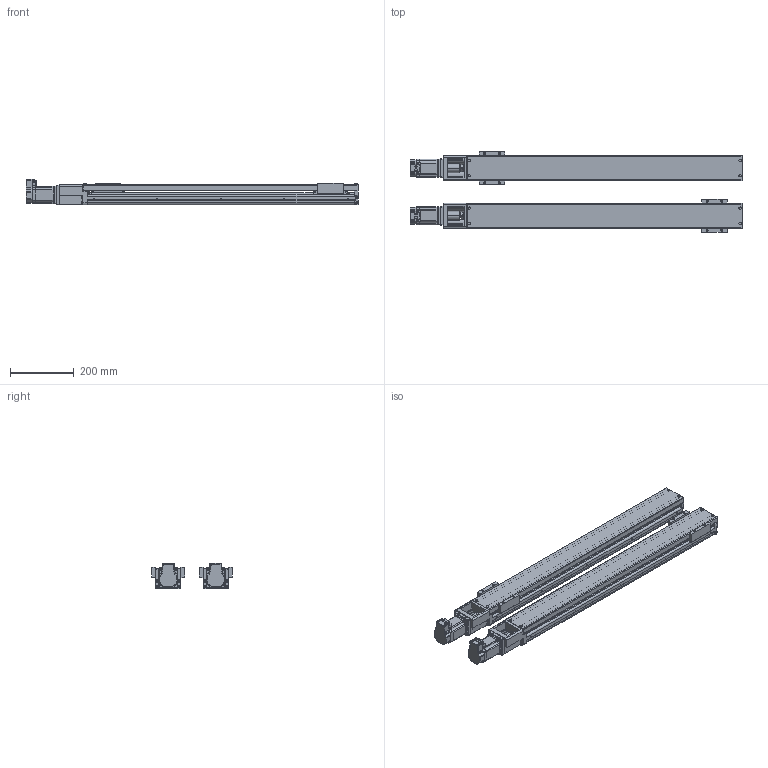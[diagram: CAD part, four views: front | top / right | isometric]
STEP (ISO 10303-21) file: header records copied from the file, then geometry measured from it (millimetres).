
FILE_DESCRIPTION(('STEP AP214'),'1');
FILE_NAME('C:\Users\RA\Desktop\作業\防塵\3D\砲台なし\DXF\2015.11.11\3D\tmp0.step',' ',(' '),(' '),'XStep 1.0',' ',' ');
FILE_SCHEMA(('automotive_design'));
Length unit declared in the file: millimetre
Products named in the file (42): 108; 112; 70; 101; 69; 100; 68; 111; 106; 109; 67; 103; 105; 107; 102; 110; 104; KR45H10A-0700-0-10A0(0-01)|_KR45H0A-840L-1A0(1_DM)-BodyCS;_KR45H0A-840L-1A0(1_DM)-BodyCS; KR45H10A-0700-0-10A0(0-01)|_KR45H(A700111)-SliderCS;_KR45H(A700111)-SliderCS; KR45H10A-0700-0-10A0(0-01)|_KR45H-A(1)-Slider SpacerCS;_KR45H-A(1)-Slider SpacerCS; KR45H10A-0700-0-10A0(0-01)|_KR45H-840-Protected CoverCS;_KR45H-840-Protected CoverCS
Bounding box: 1045 x 254 x 81 mm (x, y, z)
Volume: 4638071.6 mm3; surface area: 1313732.1 mm2
Topology: 42 solids, 42 shells, 3388 faces, 8670 edges, 5414 vertices
Faces by surface type: plane 1588, cylinder 1162, cone 428, torus 150, bspline 56, sphere 4
Entity records: 133491 total; most frequent: CARTESIAN_POINT 22002, DIRECTION 18040, ORIENTED_EDGE 17012, EDGE_CURVE 8506, AXIS2_PLACEMENT_3D 6338, VERTEX_POINT 5412, LINE 5364, VECTOR 5364
